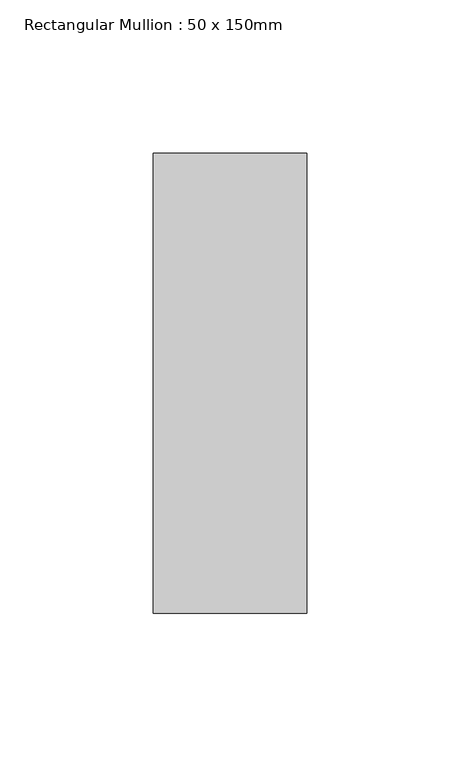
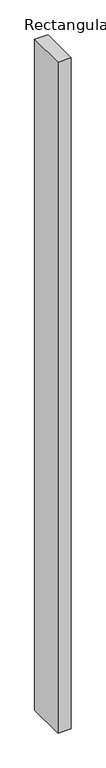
"""IFC4 building model written with IfcOpenShell, lengths in millimetres: member geometry, Rectangular Mullion : 50 x 150mm."""

from ifc_helpers import new_model, si_unit, frame, origin, place, context, project, spatial, polyline, outline, extrude, source, transform, mapped, element, save


def rectangular_mullion_50_x_150mm_43455e2b(model_context):
    return source(origin(), model_context, "Body", "SweptSolid", [
        extrude(outline(polyline([(0.0, 75.0), (0.0, -75.0), (-50.0, -75.0), (-50.0, 75.0), (0.0, 75.0)])), frame((0.0, 0.0, -2650.0), z_axis=(0.0, 0.0, 1.0), x_axis=(1.0, 0.0, 0.0)), (0.0, 0.0, 1.0), 2650.0),
    ])


if __name__ == "__main__":
    model = new_model("IFC4")
    model_context = context("Model", 3, world=origin())
    ifc_project = project(units=[si_unit("LENGTHUNIT", "METRE", prefix="MILLI")], contexts=[model_context])
    site = spatial("IfcSite", under=ifc_project)
    building = spatial("IfcBuilding", under=site)
    placement = place(None, origin())
    rectangular_mullion_50_x_150mm_shape = rectangular_mullion_50_x_150mm_43455e2b(model_context)
    element("IfcMember", 1, ObjectType="Rectangular Mullion : 50 x 150mm", at=placement, inside=building, context=model_context, shape_type="MappedRepresentation", body=[
        mapped(rectangular_mullion_50_x_150mm_shape, transform((0.0, 0.0, 0.0), x_axis=(1.0, 0.0, 0.0), y_axis=(0.0, 1.0, 0.0), z_axis=(0.0, 0.0, 1.0))),
    ])
    save(model, "model.ifc")
